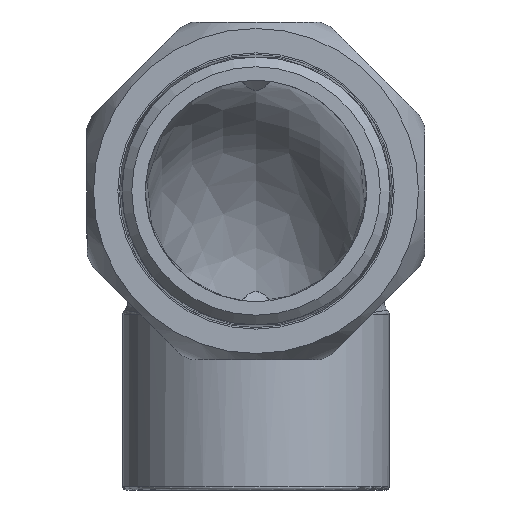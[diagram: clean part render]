
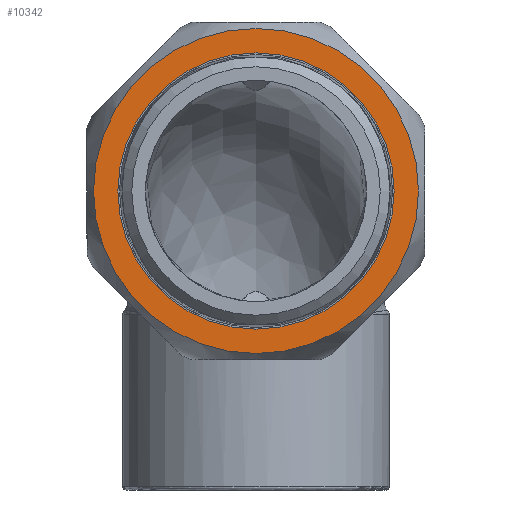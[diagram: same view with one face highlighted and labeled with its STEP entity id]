
A CAD part, left-side view. The second image highlights one B-rep face of the part: STEP entity #10342.
In plain terms, the highlighted planar face has unit normal (-1, 0, 0) as drawn and (1, 0, 0) by its records, which use the part's own axes.
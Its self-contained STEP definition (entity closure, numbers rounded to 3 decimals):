
#10308=CARTESIAN_POINT('',(19.,25.0,0.0));
#10309=VERTEX_POINT('',#10308);
#10310=CARTESIAN_POINT('',(19.,0.0,0.0));
#10311=DIRECTION('',(1.0,0.0,0.0));
#10312=DIRECTION('',(0.0,1.0,0.0));
#10313=AXIS2_PLACEMENT_3D('',#10310,#10311,#10312);
#10314=CIRCLE('',#10313,25.0);
#10315=EDGE_CURVE('',#10309,#10309,#10314,.T.);
#10323=CARTESIAN_POINT('',(19.,23.125,0.0));
#10324=DIRECTION('',(1.0,0.0,0.0));
#10325=DIRECTION('',(0.0,0.0,-1.0));
#10326=AXIS2_PLACEMENT_3D('',#10323,#10324,#10325);
#10327=PLANE('',#10326);
#10328=ORIENTED_EDGE('',*,*,#10315,.T.);
#10329=EDGE_LOOP('',(#10328));
#10330=FACE_OUTER_BOUND('',#10329,.T.);
#10331=CARTESIAN_POINT('',(19.,21.25,0.0));
#10332=VERTEX_POINT('',#10331);
#10333=CARTESIAN_POINT('',(19.,0.0,0.0));
#10334=DIRECTION('',(1.0,0.0,0.0));
#10335=DIRECTION('',(0.0,1.0,0.0));
#10336=AXIS2_PLACEMENT_3D('',#10333,#10334,#10335);
#10337=CIRCLE('',#10336,21.25);
#10338=EDGE_CURVE('',#10332,#10332,#10337,.T.);
#10339=ORIENTED_EDGE('',*,*,#10338,.F.);
#10340=EDGE_LOOP('',(#10339));
#10341=FACE_BOUND('',#10340,.T.);
#10342=ADVANCED_FACE('',(#10330,#10341),#10327,.T.);
